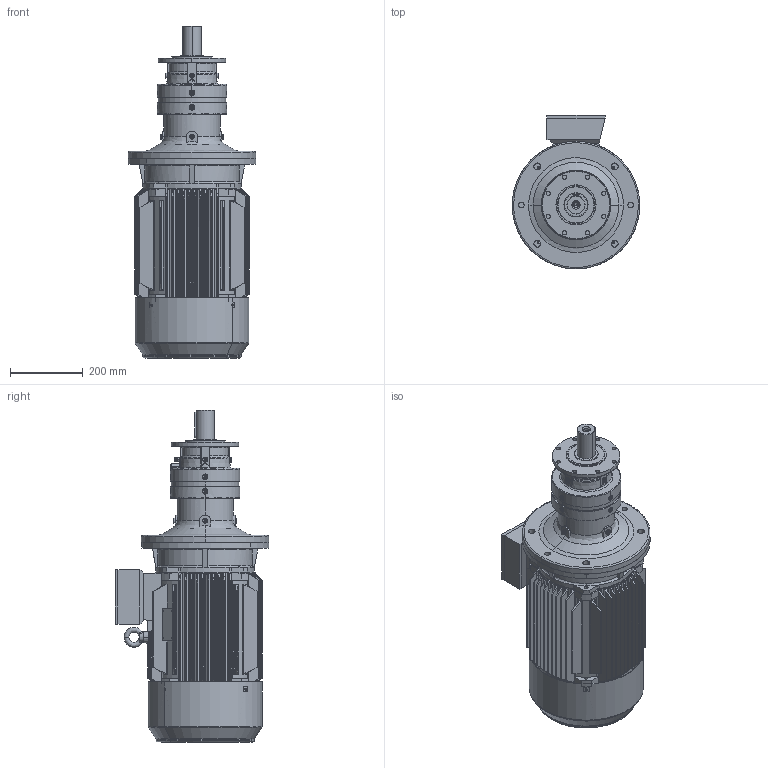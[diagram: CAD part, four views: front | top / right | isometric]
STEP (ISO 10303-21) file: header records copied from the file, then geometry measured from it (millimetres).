
FILE_DESCRIPTION (( 'STEP AP203' ), '1' );
FILE_NAME ('PVL-1101L-HS160L-4.STEP', '2019-05-24T08:40:01', ( '' ), ( '' ), 'SwSTEP 2.0', 'SolidWorks 2012', '' );
FILE_SCHEMA (( 'CONFIG_CONTROL_DESIGN' ));
Products named in the file (17): P11; M3-160L-FF-B5; PVL-1101L-HS160L-4; M3-HS160L-FF-B5; Eyebolts GB_GB_FASTENER_SCREWS_FRS M12N; +¦i-MN2-160_-++ñ; Y2-160-2ª¥--®+_-++ñ; Y2-160_shaft; +ª+§ªiY2-160ñ»ª­_-++ñ; Y2-160-4Ý¾6Ý¾8-ª+---®+_-++ñ; Y2-160L+À+¿(B5)_-++ñ; Y2-160ñ»ª­+¿_-++ñ; Y2-160-180ñ»ª­®+_-++ñ; PNL_1101L_0_0_A16_B5_ML7A_FL1A_0_0_0_0_0_0_0_0_0_0_0_M1; FL1A; 11160B5; ML7A
Assembly tree (16 placements, depth 5):
  PVL-1101L-HS160L-4
    PNL_1101L_0_0_A16_B5_ML7A_FL1A_0_0_0_0_0_0_0_0_0_0_0_M1
      P11
      11160B5
      ML7A
      FL1A
    M3-HS160L-FF-B5
      M3-160L-FF-B5
        +ª+§ªiY2-160ñ»ª­_-++ñ
          Y2-160-180ñ»ª­®+_-++ñ
          Y2-160ñ»ª­+¿_-++ñ
        Y2-160-4Ý¾6Ý¾8-ª+---®+_-++ñ
        Y2-160L+À+¿(B5)_-++ñ
        Eyebolts GB_GB_FASTENER_SCREWS_FRS M12N
        Y2-160-2ª¥--®+_-++ñ
        +¦i-MN2-160_-++ñ
        Y2-160_shaft
Bounding box: 350 x 422 x 910.5 mm (x, y, z)
Volume: 15866667.6 mm3; surface area: 2946102.4 mm2
Topology: 16 solids, 20 shells, 2203 faces, 5654 edges, 3621 vertices
Faces by surface type: cylinder 883, plane 721, bspline 306, cone 188, torus 65, sphere 40
Entity records: 116223 total; most frequent: CARTESIAN_POINT 64688, ORIENTED_EDGE 11208, DIRECTION 8962, EDGE_CURVE 5604, VERTEX_POINT 3606, AXIS2_PLACEMENT_3D 3414, EDGE_LOOP 2506, FACE_OUTER_BOUND 2203
